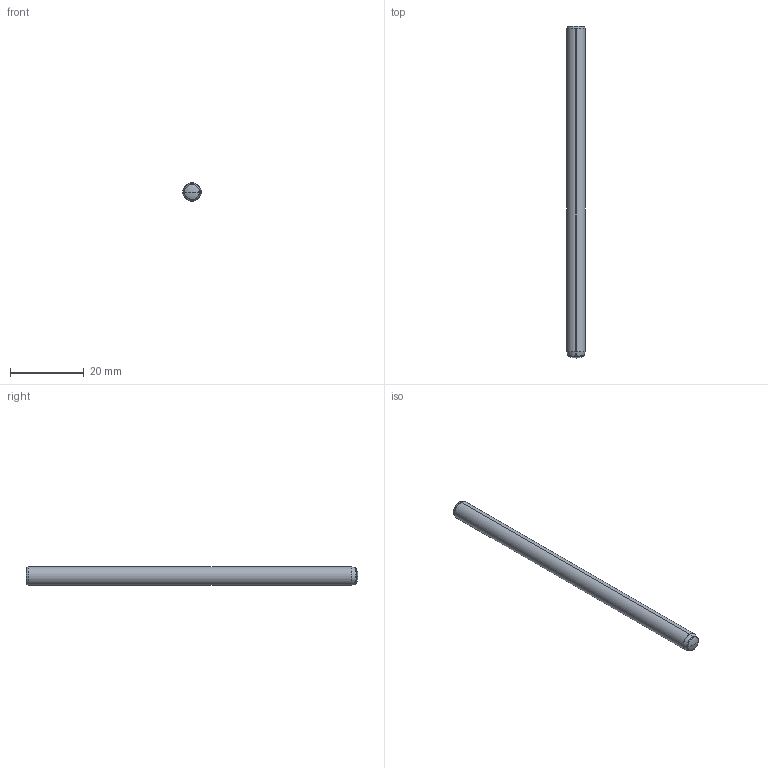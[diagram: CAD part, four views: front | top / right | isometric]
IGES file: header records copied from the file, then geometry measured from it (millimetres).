
Start section: SolidWorks IGES file using analytic representation for surfaces
Global section: file name: D:\Cleonir_arquivos\MT_15_07\Pinos Guia DIN 7979 ISO 8735 com rosca\PG705090.igs; native system: SolidWorks 2013; preprocessor: SolidWorks 2013; author: Cleonir; date: 130730.170845; units: millimetre
Bounding box: 5 x 90 x 5 mm (x, y, z)
Surface area: 1503.3 mm2 (no closed solid volume)
Topology: 0 solids, 0 shells, 290 faces, 2181 edges, 2177 vertices
Faces by surface type: bspline 268, revolution 22
